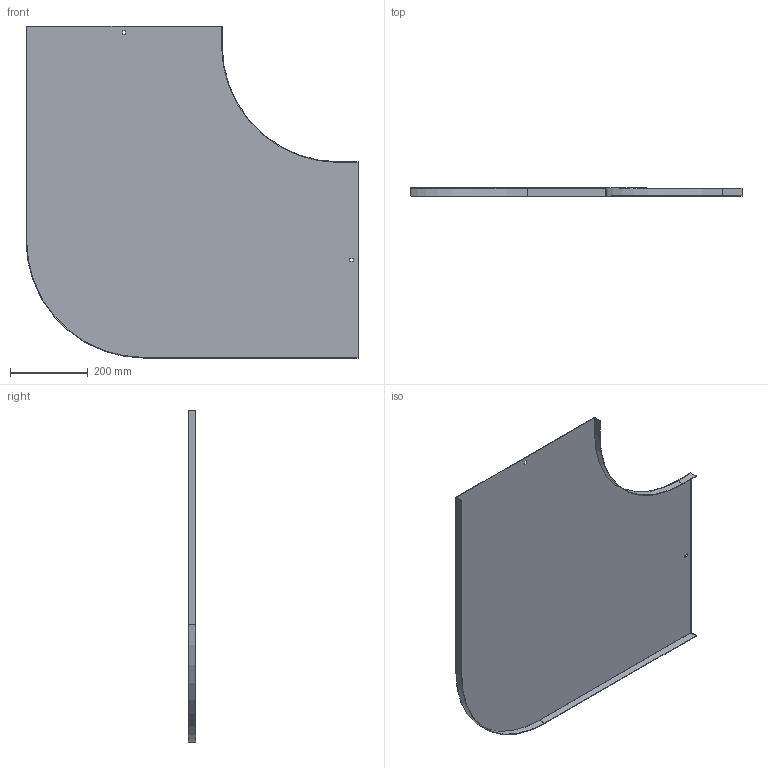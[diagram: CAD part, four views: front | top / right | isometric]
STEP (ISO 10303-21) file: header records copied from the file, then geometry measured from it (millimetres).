
FILE_DESCRIPTION (( 'STEP AP214' ), '1' );
FILE_NAME ('B2_10N3R500.step', '2025-02-21T10:54:28', ( '' ), ( '' ), 'SwSTEP 2.0', 'SolidWorks 2023', '' );
FILE_SCHEMA (( 'AUTOMOTIVE_DESIGN' ));
Length unit declared in the file: millimetre
Products named in the file (1): B2_10N3R500
Bounding box: 851.5 x 20 x 851.5 mm (x, y, z)
Volume: 964098.8 mm3; surface area: 1290391.8 mm2
Topology: 1 solids, 1 shells, 26 faces, 72 edges, 48 vertices
Faces by surface type: plane 22, cylinder 4
Entity records: 855 total; most frequent: CARTESIAN_POINT 147, ORIENTED_EDGE 144, DIRECTION 134, EDGE_CURVE 72, VECTOR 64, LINE 64, VERTEX_POINT 48, AXIS2_PLACEMENT_3D 35
